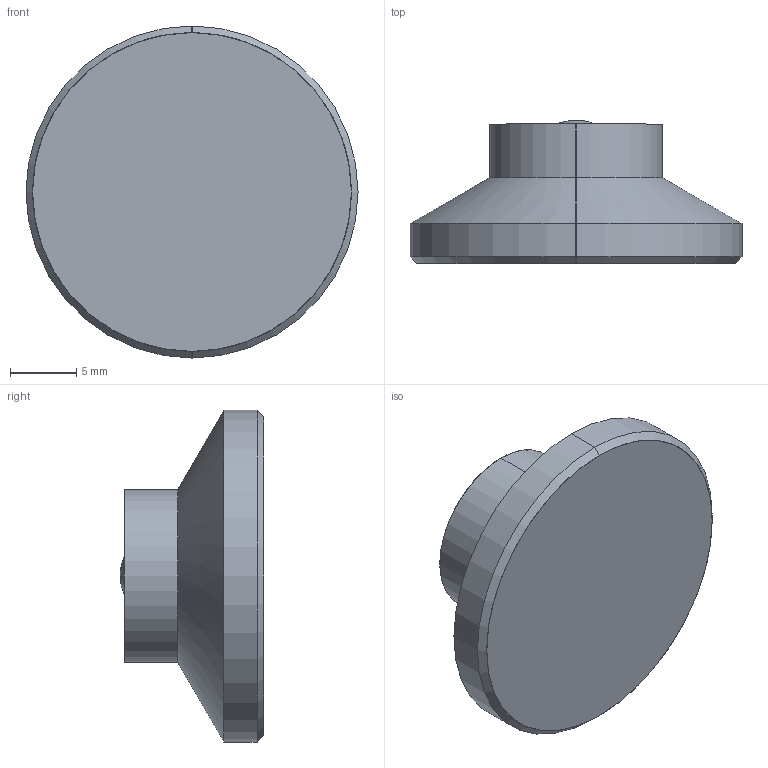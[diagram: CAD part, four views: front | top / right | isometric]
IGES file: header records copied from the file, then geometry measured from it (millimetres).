
Start section: SolidWorks IGES file using analytic representation for surfaces
Global section: file name: C:\Documents and Settings\IanO.IANOHOME\My Documents\Wix and Auto CAD Work\CAD Models\Parametric Models\Wix Models\34530\34530_IGES\34530.W0024.igs; native system: SolidWorks 2009; preprocessor: SolidWorks 2009; author: IanO; date: 110803.110706; units: millimetre
Bounding box: 25 x 10.79 x 25 mm (x, y, z)
Surface area: 1662.5 mm2 (no closed solid volume)
Topology: 0 solids, 0 shells, 14 faces, 180 edges, 176 vertices
Faces by surface type: revolution 12, bspline 2
